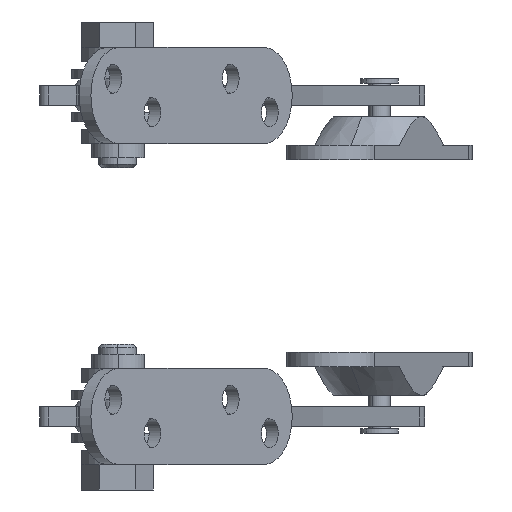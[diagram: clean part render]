
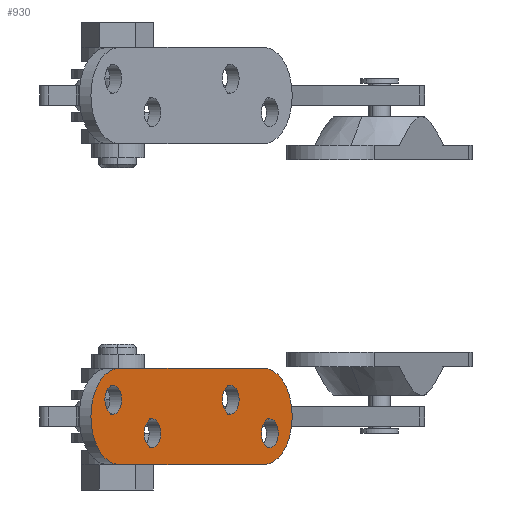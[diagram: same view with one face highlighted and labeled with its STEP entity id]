
A CAD part, left-side view. The second image highlights one B-rep face of the part: STEP entity #930.
In plain terms, the highlighted planar face has unit normal (-0.582, -0.813, 0) as drawn and (0, 1, 0) by its records, which use the part's own axes.
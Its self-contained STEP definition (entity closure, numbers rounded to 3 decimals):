
#598 = VERTEX_POINT ( 'NONE', #2729 ) ;
#678 = EDGE_LOOP ( 'NONE', ( #1018, #1019 ) ) ;
#682 = EDGE_LOOP ( 'NONE', ( #1012, #1013 ) ) ;
#683 = EDGE_LOOP ( 'NONE', ( #1014, #1015 ) ) ;
#684 = EDGE_LOOP ( 'NONE', ( #1020, #1021, #1022, #1023 ) ) ;
#685 = EDGE_LOOP ( 'NONE', ( #1016, #1017 ) ) ;
#780 = VERTEX_POINT ( 'NONE', #2773 ) ;
#898 = EDGE_CURVE ( 'NONE', #780, #1160, #2306, .T. ) ;
#902 = EDGE_CURVE ( 'NONE', #1164, #1165, #2312, .T. ) ;
#906 = EDGE_CURVE ( 'NONE', #1168, #1169, #2318, .T. ) ;
#930 = ADVANCED_FACE ( 'NONE', ( #3224, #3219, #3227, #3229, #3223 ), #3225, .T. ) ;
#949 = EDGE_CURVE ( 'NONE', #598, #1172, #2324, .T. ) ;
#1012 = ORIENTED_EDGE ( 'NONE', *, *, #1327, .F. ) ;
#1013 = ORIENTED_EDGE ( 'NONE', *, *, #898, .F. ) ;
#1014 = ORIENTED_EDGE ( 'NONE', *, *, #1328, .F. ) ;
#1015 = ORIENTED_EDGE ( 'NONE', *, *, #902, .F. ) ;
#1016 = ORIENTED_EDGE ( 'NONE', *, *, #1329, .F. ) ;
#1017 = ORIENTED_EDGE ( 'NONE', *, *, #906, .F. ) ;
#1018 = ORIENTED_EDGE ( 'NONE', *, *, #1330, .F. ) ;
#1019 = ORIENTED_EDGE ( 'NONE', *, *, #949, .F. ) ;
#1020 = ORIENTED_EDGE ( 'NONE', *, *, #1307, .T. ) ;
#1021 = ORIENTED_EDGE ( 'NONE', *, *, #1320, .T. ) ;
#1022 = ORIENTED_EDGE ( 'NONE', *, *, #1318, .T. ) ;
#1023 = ORIENTED_EDGE ( 'NONE', *, *, #1310, .F. ) ;
#1160 = VERTEX_POINT ( 'NONE', #3355 ) ;
#1164 = VERTEX_POINT ( 'NONE', #3360 ) ;
#1165 = VERTEX_POINT ( 'NONE', #3348 ) ;
#1168 = VERTEX_POINT ( 'NONE', #3362 ) ;
#1169 = VERTEX_POINT ( 'NONE', #3363 ) ;
#1172 = VERTEX_POINT ( 'NONE', #3366 ) ;
#1178 = VERTEX_POINT ( 'NONE', #3372 ) ;
#1185 = VERTEX_POINT ( 'NONE', #3379 ) ;
#1186 = VERTEX_POINT ( 'NONE', #3380 ) ;
#1188 = VERTEX_POINT ( 'NONE', #3382 ) ;
#1307 = EDGE_CURVE ( 'NONE', #1178, #1186, #3586, .T. ) ;
#1310 = EDGE_CURVE ( 'NONE', #1178, #1188, #3906, .T. ) ;
#1318 = EDGE_CURVE ( 'NONE', #1185, #1188, #3600, .T. ) ;
#1320 = EDGE_CURVE ( 'NONE', #1186, #1185, #3935, .T. ) ;
#1327 = EDGE_CURVE ( 'NONE', #1160, #780, #3612, .T. ) ;
#1328 = EDGE_CURVE ( 'NONE', #1165, #1164, #3614, .T. ) ;
#1329 = EDGE_CURVE ( 'NONE', #1169, #1168, #3616, .T. ) ;
#1330 = EDGE_CURVE ( 'NONE', #1172, #598, #3618, .T. ) ;
#2306 = CIRCLE ( 'NONE', #2310, 3. ) ;
#2310 = AXIS2_PLACEMENT_3D ( 'NONE', #3078, #3079, #3080 ) ;
#2312 = CIRCLE ( 'NONE', #2316, 3. ) ;
#2316 = AXIS2_PLACEMENT_3D ( 'NONE', #3090, #3091, #3092 ) ;
#2318 = CIRCLE ( 'NONE', #2322, 3. ) ;
#2322 = AXIS2_PLACEMENT_3D ( 'NONE', #3102, #3103, #3104 ) ;
#2324 = CIRCLE ( 'NONE', #2326, 3. ) ;
#2326 = AXIS2_PLACEMENT_3D ( 'NONE', #3327, #3328, #3329 ) ;
#2729 = CARTESIAN_POINT ( 'NONE',  ( -28., 0., -6.5 ) ) ;
#2773 = CARTESIAN_POINT ( 'NONE',  ( 28., 0., 0.5 ) ) ;
#3078 = CARTESIAN_POINT ( 'NONE',  ( 28., 0., 3.5 ) ) ;
#3079 = DIRECTION ( 'NONE',  ( 0., 1., 0. ) ) ;
#3080 = DIRECTION ( 'NONE',  ( 0., 0., 1. ) ) ;
#3090 = CARTESIAN_POINT ( 'NONE',  ( 14., 0., -3.5 ) ) ;
#3091 = DIRECTION ( 'NONE',  ( 0., 1., 0. ) ) ;
#3092 = DIRECTION ( 'NONE',  ( 0., 0., 1. ) ) ;
#3102 = CARTESIAN_POINT ( 'NONE',  ( -14., 0., 3.5 ) ) ;
#3103 = DIRECTION ( 'NONE',  ( 0., 1., 0. ) ) ;
#3104 = DIRECTION ( 'NONE',  ( 0., 0., 1. ) ) ;
#3219 = FACE_BOUND ( 'NONE', #683, .T. ) ;
#3223 = FACE_OUTER_BOUND ( 'NONE', #684, .T. ) ;
#3224 = FACE_BOUND ( 'NONE', #682, .T. ) ;
#3225 = PLANE ( 'NONE',  #3544 ) ;
#3227 = FACE_BOUND ( 'NONE', #685, .T. ) ;
#3228 = CARTESIAN_POINT ( 'NONE',  ( -26., 0., 0. ) ) ;
#3229 = FACE_BOUND ( 'NONE', #678, .T. ) ;
#3231 = DIRECTION ( 'NONE',  ( 0., 1., 0. ) ) ;
#3232 = DIRECTION ( 'NONE',  ( 0., 0., 1. ) ) ;
#3327 = CARTESIAN_POINT ( 'NONE',  ( -28., 0., -3.5 ) ) ;
#3328 = DIRECTION ( 'NONE',  ( 0., 1., 0. ) ) ;
#3329 = DIRECTION ( 'NONE',  ( 0., 0., 1. ) ) ;
#3348 = CARTESIAN_POINT ( 'NONE',  ( 14., 0., -0.5 ) ) ;
#3355 = CARTESIAN_POINT ( 'NONE',  ( 28., 0., 6.5 ) ) ;
#3360 = CARTESIAN_POINT ( 'NONE',  ( 14., 0., -6.5 ) ) ;
#3362 = CARTESIAN_POINT ( 'NONE',  ( -14., 0., 0.5 ) ) ;
#3363 = CARTESIAN_POINT ( 'NONE',  ( -14., 0., 6.5 ) ) ;
#3366 = CARTESIAN_POINT ( 'NONE',  ( -28., 0., -0.5 ) ) ;
#3372 = CARTESIAN_POINT ( 'NONE',  ( -26., 0., -10. ) ) ;
#3379 = CARTESIAN_POINT ( 'NONE',  ( 26., 0., 10. ) ) ;
#3380 = CARTESIAN_POINT ( 'NONE',  ( -26., 0., 10. ) ) ;
#3382 = CARTESIAN_POINT ( 'NONE',  ( 26., 0., -10. ) ) ;
#3544 = AXIS2_PLACEMENT_3D ( 'NONE', #3228, #3231, #3232 ) ;
#3586 = CIRCLE ( 'NONE', #3589, 10. ) ;
#3589 = AXIS2_PLACEMENT_3D ( 'NONE', #3899, #3900, #3901 ) ;
#3591 = VECTOR ( 'NONE', #3908, 1000. ) ;
#3600 = CIRCLE ( 'NONE', #3603, 10. ) ;
#3603 = AXIS2_PLACEMENT_3D ( 'NONE', #3931, #3932, #3933 ) ;
#3604 = VECTOR ( 'NONE', #3937, 1000. ) ;
#3612 = CIRCLE ( 'NONE', #3615, 3. ) ;
#3614 = CIRCLE ( 'NONE', #3617, 3. ) ;
#3615 = AXIS2_PLACEMENT_3D ( 'NONE', #3956, #3957, #3958 ) ;
#3616 = CIRCLE ( 'NONE', #3619, 3. ) ;
#3617 = AXIS2_PLACEMENT_3D ( 'NONE', #3959, #3960, #3961 ) ;
#3618 = CIRCLE ( 'NONE', #3621, 3. ) ;
#3619 = AXIS2_PLACEMENT_3D ( 'NONE', #3964, #3965, #3966 ) ;
#3621 = AXIS2_PLACEMENT_3D ( 'NONE', #3969, #3970, #3971 ) ;
#3899 = CARTESIAN_POINT ( 'NONE',  ( -26., 0., 0. ) ) ;
#3900 = DIRECTION ( 'NONE',  ( 0., 1., 0. ) ) ;
#3901 = DIRECTION ( 'NONE',  ( 0., 0., 1. ) ) ;
#3906 = LINE ( 'NONE', #3907, #3591 ) ;
#3907 = CARTESIAN_POINT ( 'NONE',  ( -26., 0., -10. ) ) ;
#3908 = DIRECTION ( 'NONE',  ( 1., 0., 0. ) ) ;
#3931 = CARTESIAN_POINT ( 'NONE',  ( 26., 0., 0. ) ) ;
#3932 = DIRECTION ( 'NONE',  ( 0., 1., 0. ) ) ;
#3933 = DIRECTION ( 'NONE',  ( 0., 0., 1. ) ) ;
#3935 = LINE ( 'NONE', #3936, #3604 ) ;
#3936 = CARTESIAN_POINT ( 'NONE',  ( -26., 0., 10. ) ) ;
#3937 = DIRECTION ( 'NONE',  ( 1., 0., 0. ) ) ;
#3956 = CARTESIAN_POINT ( 'NONE',  ( 28., 0., 3.5 ) ) ;
#3957 = DIRECTION ( 'NONE',  ( 0., 1., 0. ) ) ;
#3958 = DIRECTION ( 'NONE',  ( 0., 0., 1. ) ) ;
#3959 = CARTESIAN_POINT ( 'NONE',  ( 14., 0., -3.5 ) ) ;
#3960 = DIRECTION ( 'NONE',  ( 0., 1., 0. ) ) ;
#3961 = DIRECTION ( 'NONE',  ( 0., 0., 1. ) ) ;
#3964 = CARTESIAN_POINT ( 'NONE',  ( -14., 0., 3.5 ) ) ;
#3965 = DIRECTION ( 'NONE',  ( 0., 1., 0. ) ) ;
#3966 = DIRECTION ( 'NONE',  ( 0., 0., 1. ) ) ;
#3969 = CARTESIAN_POINT ( 'NONE',  ( -28., 0., -3.5 ) ) ;
#3970 = DIRECTION ( 'NONE',  ( 0., 1., 0. ) ) ;
#3971 = DIRECTION ( 'NONE',  ( 0., 0., 1. ) ) ;
